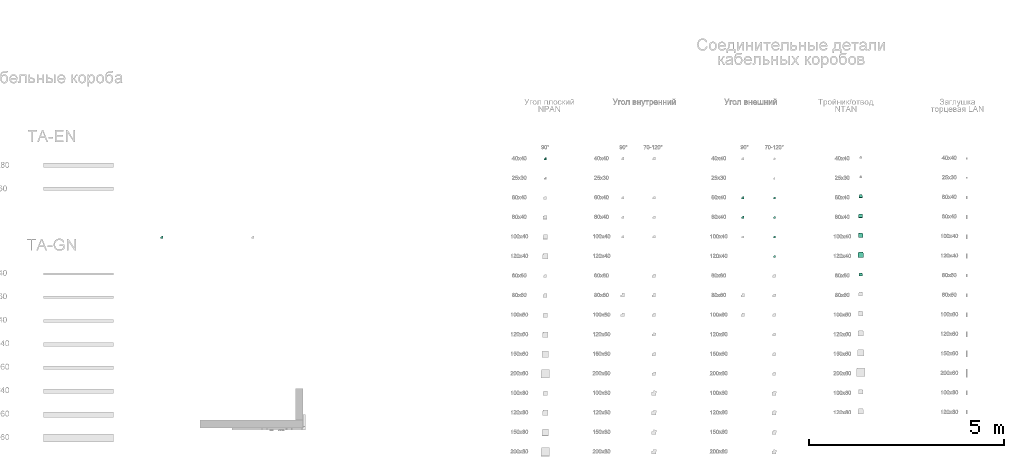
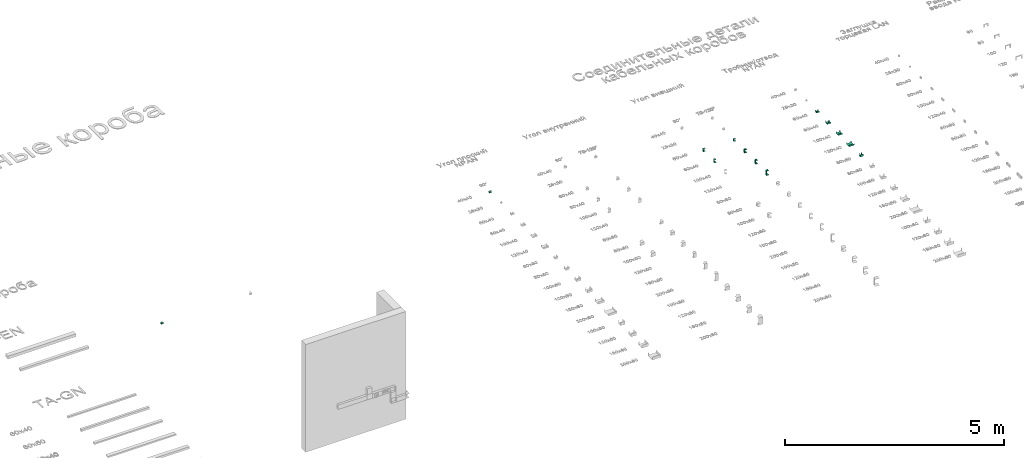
# One storey, part 8 of 71: 13 flow fittings.
"""IFC2X3 building model written with IfcOpenShell, lengths in millimetres."""

from ifc_helpers import new_model, entity, si_unit, converted_unit, derived_unit, direction, frame, origin, place, context, subcontext, project, spatial, faceted_brep, source, transform, mapped, material, type_object, type_shapes, element, save


model = new_model("IFC2X3")

# Units and contexts
model_context = context("Model", 3, precision=0.01, world=origin(), true_north=direction((6.12303176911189e-17, 1.0)))
body_context = subcontext(model_context, "Body", "Model", "MODEL_VIEW")
ifc_project = project(units=[si_unit("LENGTHUNIT", "METRE", prefix="MILLI"), si_unit("AREAUNIT", "SQUARE_METRE"), si_unit("VOLUMEUNIT", "CUBIC_METRE"), converted_unit("PLANEANGLEUNIT", "DEGREE", entity("IfcRatioMeasure", 0.0174532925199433), si_unit("PLANEANGLEUNIT", "RADIAN"), dimensions=[0, 0, 0, 0, 0, 0, 0]), si_unit("MASSUNIT", "GRAM", prefix="KILO"), derived_unit("MASSDENSITYUNIT", [(si_unit("MASSUNIT", "GRAM", prefix="KILO"), 1), (si_unit("LENGTHUNIT", "METRE"), -3)]), si_unit("TIMEUNIT", "SECOND"), si_unit("FREQUENCYUNIT", "HERTZ"), si_unit("THERMODYNAMICTEMPERATUREUNIT", "DEGREE_CELSIUS"), derived_unit("THERMALTRANSMITTANCEUNIT", [(si_unit("MASSUNIT", "GRAM", prefix="KILO"), 1), (si_unit("THERMODYNAMICTEMPERATUREUNIT", "KELVIN"), -1), (si_unit("TIMEUNIT", "SECOND"), -3)]), derived_unit("VOLUMETRICFLOWRATEUNIT", [(si_unit("LENGTHUNIT", "METRE"), 3), (si_unit("TIMEUNIT", "SECOND"), -1)]), si_unit("ELECTRICCURRENTUNIT", "AMPERE"), si_unit("ELECTRICVOLTAGEUNIT", "VOLT"), si_unit("POWERUNIT", "WATT"), si_unit("FORCEUNIT", "NEWTON", prefix="KILO"), si_unit("ILLUMINANCEUNIT", "LUX"), si_unit("LUMINOUSFLUXUNIT", "LUMEN"), si_unit("LUMINOUSINTENSITYUNIT", "CANDELA"), derived_unit("USERDEFINED", [(si_unit("MASSUNIT", "GRAM", prefix="KILO"), -1), (si_unit("LENGTHUNIT", "METRE"), -2), (si_unit("TIMEUNIT", "SECOND"), 3), (si_unit("LUMINOUSFLUXUNIT", "LUMEN"), 1)]), derived_unit("LINEARVELOCITYUNIT", [(si_unit("LENGTHUNIT", "METRE"), 1), (si_unit("TIMEUNIT", "SECOND"), -1)]), si_unit("PRESSUREUNIT", "PASCAL"), derived_unit("USERDEFINED", [(si_unit("LENGTHUNIT", "METRE"), -2), (si_unit("MASSUNIT", "GRAM", prefix="KILO"), 1), (si_unit("TIMEUNIT", "SECOND"), -2)])], contexts=[model_context])

# Site, building, storey
site_placement = place(None, origin())
site = spatial("IfcSite", under=ifc_project, at=site_placement, Name="Default", CompositionType="ELEMENT")
building_placement = place(site_placement, origin())
building = spatial("IfcBuilding", under=site, at=building_placement, Name="Наименование здания", CompositionType="ELEMENT")
storey_placement = place(building_placement, origin())
storey = spatial("IfcBuildingStorey", under=building, at=storey_placement, Name="Этаж 01", CompositionType="ELEMENT", Elevation=0.0)

# Flow fittings
ifc_material = material(Name="DKC_Пластик_Белый")
cable_carrier_fitting_type_1 = type_object("IfcCableCarrierFittingType", Name="Угол плоский NPAN_DKC", PredefinedType="NOTDEFINED", material=ifc_material)
shared_shape_1 = source(origin(), body_context, "Body", "Brep", [
    faceted_brep([(-40.0, 20.0, -20.0), (-40.0, -20.0, -20.0), (-40.0, -20.0, 20.0), (-40.0, -17.4600000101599, 20.0), (-40.0, -17.4600000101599, -17.4600000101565), (-40.0, 17.4600000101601, -17.4600000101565), (-40.0, 17.4600000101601, 20.0), (-40.0, 20.0, 20.0), (-20.0, 20.0, -20.0), (-20.0, 40.0, -20.0), (20.0, 40.0, -20.0), (20.0, -20.0, -20.0), (20.0, -20.0, 20.0), (20.0, 40.0, 20.0), (17.4600000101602, 40.0, 20.0), (17.4600000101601, -17.4600000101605, 20.0), (17.4600000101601, -17.4600000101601, -17.4600000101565), (17.4600000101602, 40.0, -17.4600000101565), (-17.4600000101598, 40.0, -17.4600000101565), (-17.4600000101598, 17.4600000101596, -17.4600000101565), (-17.4600000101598, 17.4600000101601, 20.0), (-17.4600000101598, 40.0, 20.0), (-20.0, 40.0, 20.0), (-20.0, 20.0, 20.0)], [[[0, 1, 2, 3, 4, 5, 6, 7]], [[1, 0, 8, 9, 10, 11]], [[2, 1, 11, 12]], [[3, 2, 12, 13, 14, 15]], [[4, 3, 15, 16]], [[5, 4, 16, 17, 18, 19]], [[6, 5, 19, 20]], [[7, 6, 20, 21, 22, 23]], [[0, 7, 23, 8]], [[9, 22, 21, 18, 17, 14, 13, 10]], [[12, 11, 10, 13]], [[16, 15, 14, 17]], [[20, 19, 18, 21]], [[8, 23, 22, 9]]]),
])
type_shapes(cable_carrier_fitting_type_1, [shared_shape_1])
flow_fitting_1_placement = place(storey_placement, frame((4006.99750514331, 1048.47164981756, 1000.0)))
element("IfcFlowFitting", 1, at=flow_fitting_1_placement, inside=storey, type_object=cable_carrier_fitting_type_1, material=ifc_material, Name="КНС_УголПлоский NPAN_ILC_DKC:Угол плоский NPAN_DKC", ObjectType="Угол плоский NPAN_DKC", context=body_context, shape_type="MappedRepresentation", body=[
    mapped(shared_shape_1, transform((0.0, 0.0, 0.0), scale=1.0)),
])
cable_carrier_fitting_type_2 = type_object("IfcCableCarrierFittingType", Name="Угол плоский NPAN_DKC", PredefinedType="NOTDEFINED", material=ifc_material)
shared_shape_2 = source(origin(), body_context, "Body", "Brep", [
    faceted_brep([(-40.0, 20.0, -20.0), (-40.0, -20.0, -20.0), (-40.0, -20.0, 20.0), (-40.0, -17.4999999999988, 20.0), (-40.0, -17.4999999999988, -17.4999999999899), (-40.0, 17.5000000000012, -17.4999999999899), (-40.0, 17.5000000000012, 20.0), (-40.0, 20.0, 20.0), (-20.0, 20.0, -20.0), (-20.0, 40.0, -20.0), (20.0, 40.0, -20.0), (20.0, -20.0, -20.0), (20.0, -20.0, 20.0), (20.0, 40.0, 20.0), (17.4999999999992, 40.0, 20.0), (17.4999999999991, -17.4999999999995, 20.0), (17.4999999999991, -17.499999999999, -17.4999999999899), (17.4999999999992, 40.0, -17.4999999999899), (-17.5000000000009, 40.0, -17.4999999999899), (-17.5000000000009, 17.5000000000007, -17.4999999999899), (-17.5000000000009, 17.5000000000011, 20.0), (-17.5000000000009, 40.0, 20.0), (-20.0, 40.0, 20.0), (-20.0, 20.0, 20.0)], [[[0, 1, 2, 3, 4, 5, 6, 7]], [[1, 0, 8, 9, 10, 11]], [[2, 1, 11, 12]], [[3, 2, 12, 13, 14, 15]], [[4, 3, 15, 16]], [[5, 4, 16, 17, 18, 19]], [[6, 5, 19, 20]], [[7, 6, 20, 21, 22, 23]], [[0, 7, 23, 8]], [[9, 22, 21, 18, 17, 14, 13, 10]], [[12, 11, 10, 13]], [[16, 15, 14, 17]], [[20, 19, 18, 21]], [[8, 23, 22, 9]]]),
])
type_shapes(cable_carrier_fitting_type_2, [shared_shape_2])
flow_fitting_2_placement = place(storey_placement, frame((13813.1010063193, 3060.7911827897, 0.0)))
element("IfcFlowFitting", 2, at=flow_fitting_2_placement, inside=storey, type_object=cable_carrier_fitting_type_2, material=ifc_material, Name="КНС_УголПлоский NPAN_ILC_DKC:Угол плоский NPAN_DKC", ObjectType="Угол плоский NPAN_DKC", context=body_context, shape_type="MappedRepresentation", body=[
    mapped(shared_shape_2, transform((0.0, 0.0, 0.0), scale=1.0)),
])
cable_carrier_fitting_type_3 = type_object("IfcCableCarrierFittingType", Name="Угол внешний_DKC", PredefinedType="NOTDEFINED", material=ifc_material)
shared_shape_3 = source(origin(), body_context, "Body", "Brep", [
    faceted_brep([(-40.0, 20.0, 30.0), (-40.0, 20.0, -30.0), (-40.0, -20.0, -30.0), (-40.0, -20.0, -27.4999999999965), (-40.0, 17.5000000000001, -27.4999999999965), (-40.0, 17.5000000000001, 27.5000000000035), (-40.0, -20.0, 27.5000000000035), (-40.0, -20.0, 30.0), (-20.0, 40.0, 30.0), (20.0, 40.0, 30.0), (20.0, 40.0, 27.5000000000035), (-17.499999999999, 40.0, 27.5000000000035), (-17.499999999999, 40.0, -27.4999999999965), (20.0, 40.0, -27.4999999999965), (20.0, 40.0, -30.0), (-20.0, 40.0, -30.0), (-20.0, 20.0, 30.0), (-20.0, 20.0, -30.0), (20.0, -20.0, -30.0), (20.0, -20.0, -27.4999999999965), (-17.4999999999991, 17.4999999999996, -27.4999999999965), (-17.4999999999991, 17.5000000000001, 27.5000000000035), (20.0, -20.0, 27.5000000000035), (20.0, -20.0, 30.0)], [[[0, 1, 2, 3, 4, 5, 6, 7]], [[8, 9, 10, 11, 12, 13, 14, 15]], [[1, 0, 16, 17]], [[2, 1, 17, 15, 14, 18]], [[3, 2, 18, 19]], [[4, 3, 19, 13, 12, 20]], [[5, 4, 20, 21]], [[6, 5, 21, 11, 10, 22]], [[7, 6, 22, 23]], [[0, 7, 23, 9, 8, 16]], [[17, 16, 8, 15]], [[19, 18, 14, 13]], [[21, 20, 12, 11]], [[23, 22, 10, 9]]]),
])
type_shapes(cable_carrier_fitting_type_3, [shared_shape_3])
flow_fitting_3_placement = place(storey_placement, frame((18870.2876691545, 2060.7911827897, 0.0)))
element("IfcFlowFitting", 3, at=flow_fitting_3_placement, inside=storey, type_object=cable_carrier_fitting_type_3, material=ifc_material, Name="КНС_УголВнешний_ILC_DKC:Угол внешний_DKC", ObjectType="Угол внешний_DKC", context=body_context, shape_type="MappedRepresentation", body=[
    mapped(shared_shape_3, transform((0.0, 0.0, 0.0), scale=1.0)),
])
cable_carrier_fitting_type_4 = type_object("IfcCableCarrierFittingType", Name="Угол внешний_DKC", PredefinedType="NOTDEFINED", material=ifc_material)
shared_shape_4 = source(origin(), body_context, "Body", "Brep", [
    faceted_brep([(-40.0, 20.0, 40.0), (-40.0, 20.0, -40.0), (-40.0, -20.0, -40.0), (-40.0, -20.0, -37.4999999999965), (-40.0, 17.5000000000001, -37.4999999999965), (-40.0, 17.5000000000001, 37.5000000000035), (-40.0, -20.0, 37.5000000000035), (-40.0, -20.0, 40.0), (-20.0, 40.0, 40.0), (20.0, 40.0, 40.0), (20.0, 40.0, 37.5000000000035), (-17.499999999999, 40.0, 37.5000000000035), (-17.499999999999, 40.0, -37.4999999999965), (20.0, 40.0, -37.4999999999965), (20.0, 40.0, -40.0), (-20.0, 40.0, -40.0), (-20.0, 20.0, 40.0), (-20.0, 20.0, -40.0), (20.0, -20.0, -40.0), (20.0, -20.0, -37.4999999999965), (-17.4999999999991, 17.4999999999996, -37.4999999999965), (-17.4999999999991, 17.5000000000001, 37.5000000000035), (20.0, -20.0, 37.5000000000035), (20.0, -20.0, 40.0)], [[[0, 1, 2, 3, 4, 5, 6, 7]], [[8, 9, 10, 11, 12, 13, 14, 15]], [[1, 0, 16, 17]], [[2, 1, 17, 15, 14, 18]], [[3, 2, 18, 19]], [[4, 3, 19, 13, 12, 20]], [[5, 4, 20, 21]], [[6, 5, 21, 11, 10, 22]], [[7, 6, 22, 23]], [[0, 7, 23, 9, 8, 16]], [[17, 16, 8, 15]], [[19, 18, 14, 13]], [[21, 20, 12, 11]], [[23, 22, 10, 9]]]),
])
type_shapes(cable_carrier_fitting_type_4, [shared_shape_4])
flow_fitting_4_placement = place(storey_placement, frame((18870.2876691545, 1560.7911827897, 0.0)))
element("IfcFlowFitting", 4, at=flow_fitting_4_placement, inside=storey, type_object=cable_carrier_fitting_type_4, material=ifc_material, Name="КНС_УголВнешний_ILC_DKC:Угол внешний_DKC", ObjectType="Угол внешний_DKC", context=body_context, shape_type="MappedRepresentation", body=[
    mapped(shared_shape_4, transform((0.0, 0.0, 0.0), scale=1.0)),
])
cable_carrier_fitting_type_5 = type_object("IfcCableCarrierFittingType", Name="Угол внешний_DKC", PredefinedType="NOTDEFINED", material=ifc_material)
shared_shape_5 = source(origin(), body_context, "Body", "Brep", [
    faceted_brep([(-33.5639852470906, 20.0, 30.0), (-33.5639852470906, 20.0, -30.0), (-33.5639852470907, -20.0, -30.0), (-33.5639852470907, -20.0, -27.4999999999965), (-33.5639852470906, 17.5000000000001, -27.4999999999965), (-33.5639852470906, 17.5000000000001, 27.5000000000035), (-33.5639852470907, -20.0, 27.5000000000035), (-33.5639852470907, -20.0, 30.0), (-13.8678301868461, 36.5270364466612, 30.0), (25.5244799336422, 29.581109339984, 30.0), (25.5244799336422, 29.581109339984, 27.5000000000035), (-11.4058108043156, 36.0929160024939, 27.5000000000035), (-11.4058108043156, 36.0929160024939, -27.4999999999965), (25.5244799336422, 29.581109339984, -27.4999999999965), (25.5244799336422, 29.581109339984, -30.0), (-13.8678301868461, 36.5270364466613, -30.0), (-16.7819926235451, 20.0, 30.0), (-16.7819926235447, 20.0, -30.0), (16.7819926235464, -20.0, -30.0), (16.7819926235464, -20.0, -27.4999999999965), (-14.6842435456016, 17.4999999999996, -27.4999999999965), (-14.6842435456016, 17.5000000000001, 27.5000000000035), (16.7819926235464, -20.0, 27.5000000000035), (16.7819926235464, -20.0, 30.0)], [[[0, 1, 2, 3, 4, 5, 6, 7]], [[8, 9, 10, 11, 12, 13, 14, 15]], [[1, 0, 16, 17]], [[2, 1, 17, 15, 14, 18]], [[3, 2, 18, 19]], [[4, 3, 19, 13, 12, 20]], [[5, 4, 20, 21]], [[6, 5, 21, 11, 10, 22]], [[7, 6, 22, 23]], [[0, 7, 23, 9, 8, 16]], [[17, 16, 8, 15]], [[19, 18, 14, 13]], [[21, 20, 12, 11]], [[23, 22, 10, 9]]]),
])
type_shapes(cable_carrier_fitting_type_5, [shared_shape_5])
flow_fitting_5_placement = place(storey_placement, frame((19670.2876691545, 2060.7911827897, 0.0)))
element("IfcFlowFitting", 5, at=flow_fitting_5_placement, inside=storey, type_object=cable_carrier_fitting_type_5, material=ifc_material, Name="КНС_УголВнешний_ILC_DKC:Угол внешний_DKC", ObjectType="Угол внешний_DKC", context=body_context, shape_type="MappedRepresentation", body=[
    mapped(shared_shape_5, transform((0.0, 0.0, 0.0), scale=1.0)),
])
cable_carrier_fitting_type_6 = type_object("IfcCableCarrierFittingType", Name="Угол внешний_DKC", PredefinedType="NOTDEFINED", material=ifc_material)
shared_shape_6 = source(origin(), body_context, "Body", "Brep", [
    faceted_brep([(-33.5639852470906, 20.0, 40.0), (-33.5639852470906, 20.0, -40.0), (-33.5639852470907, -20.0, -40.0), (-33.5639852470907, -20.0, -37.4999999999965), (-33.5639852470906, 17.5000000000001, -37.4999999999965), (-33.5639852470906, 17.5000000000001, 37.5000000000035), (-33.5639852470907, -20.0, 37.5000000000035), (-33.5639852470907, -20.0, 40.0), (-13.8678301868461, 36.5270364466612, 40.0), (25.5244799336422, 29.581109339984, 40.0), (25.5244799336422, 29.581109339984, 37.5000000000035), (-11.4058108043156, 36.0929160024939, 37.5000000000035), (-11.4058108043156, 36.0929160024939, -37.4999999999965), (25.5244799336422, 29.581109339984, -37.4999999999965), (25.5244799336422, 29.581109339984, -40.0), (-13.8678301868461, 36.5270364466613, -40.0), (-16.7819926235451, 20.0, 40.0), (-16.7819926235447, 20.0, -40.0), (16.7819926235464, -20.0, -40.0), (16.7819926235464, -20.0, -37.4999999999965), (-14.6842435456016, 17.4999999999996, -37.4999999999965), (-14.6842435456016, 17.5000000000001, 37.5000000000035), (16.7819926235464, -20.0, 37.5000000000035), (16.7819926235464, -20.0, 40.0)], [[[0, 1, 2, 3, 4, 5, 6, 7]], [[8, 9, 10, 11, 12, 13, 14, 15]], [[1, 0, 16, 17]], [[2, 1, 17, 15, 14, 18]], [[3, 2, 18, 19]], [[4, 3, 19, 13, 12, 20]], [[5, 4, 20, 21]], [[6, 5, 21, 11, 10, 22]], [[7, 6, 22, 23]], [[0, 7, 23, 9, 8, 16]], [[17, 16, 8, 15]], [[19, 18, 14, 13]], [[21, 20, 12, 11]], [[23, 22, 10, 9]]]),
])
type_shapes(cable_carrier_fitting_type_6, [shared_shape_6])
flow_fitting_6_placement = place(storey_placement, frame((19670.2876691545, 1560.7911827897, 0.0)))
element("IfcFlowFitting", 6, at=flow_fitting_6_placement, inside=storey, type_object=cable_carrier_fitting_type_6, material=ifc_material, Name="КНС_УголВнешний_ILC_DKC:Угол внешний_DKC", ObjectType="Угол внешний_DKC", context=body_context, shape_type="MappedRepresentation", body=[
    mapped(shared_shape_6, transform((0.0, 0.0, 0.0), scale=1.0)),
])
cable_carrier_fitting_type_7 = type_object("IfcCableCarrierFittingType", Name="Угол внешний_DKC", PredefinedType="NOTDEFINED", material=ifc_material)
shared_shape_7 = source(origin(), body_context, "Body", "Brep", [
    faceted_brep([(-33.5639852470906, 20.0, 50.0), (-33.5639852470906, 20.0, -50.0), (-33.5639852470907, -20.0, -50.0), (-33.5639852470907, -20.0, -47.4999999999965), (-33.5639852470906, 17.5000000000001, -47.4999999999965), (-33.5639852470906, 17.5000000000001, 47.5000000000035), (-33.5639852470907, -20.0, 47.5000000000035), (-33.5639852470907, -20.0, 50.0), (-13.8678301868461, 36.5270364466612, 50.0), (25.5244799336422, 29.581109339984, 50.0), (25.5244799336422, 29.581109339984, 47.5000000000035), (-11.4058108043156, 36.0929160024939, 47.5000000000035), (-11.4058108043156, 36.0929160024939, -47.4999999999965), (25.5244799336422, 29.581109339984, -47.4999999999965), (25.5244799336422, 29.581109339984, -50.0), (-13.8678301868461, 36.5270364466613, -50.0), (-16.7819926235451, 20.0, 50.0), (-16.7819926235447, 20.0, -50.0), (16.7819926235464, -20.0, -50.0), (16.7819926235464, -20.0, -47.4999999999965), (-14.6842435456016, 17.4999999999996, -47.4999999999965), (-14.6842435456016, 17.5000000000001, 47.5000000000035), (16.7819926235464, -20.0, 47.5000000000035), (16.7819926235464, -20.0, 50.0)], [[[0, 1, 2, 3, 4, 5, 6, 7]], [[8, 9, 10, 11, 12, 13, 14, 15]], [[1, 0, 16, 17]], [[2, 1, 17, 15, 14, 18]], [[3, 2, 18, 19]], [[4, 3, 19, 13, 12, 20]], [[5, 4, 20, 21]], [[6, 5, 21, 11, 10, 22]], [[7, 6, 22, 23]], [[0, 7, 23, 9, 8, 16]], [[17, 16, 8, 15]], [[19, 18, 14, 13]], [[21, 20, 12, 11]], [[23, 22, 10, 9]]]),
])
type_shapes(cable_carrier_fitting_type_7, [shared_shape_7])
flow_fitting_7_placement = place(storey_placement, frame((19670.2876691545, 1060.7911827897, 0.0)))
element("IfcFlowFitting", 7, at=flow_fitting_7_placement, inside=storey, type_object=cable_carrier_fitting_type_7, material=ifc_material, Name="КНС_УголВнешний_ILC_DKC:Угол внешний_DKC", ObjectType="Угол внешний_DKC", context=body_context, shape_type="MappedRepresentation", body=[
    mapped(shared_shape_7, transform((0.0, 0.0, 0.0), scale=1.0)),
])
cable_carrier_fitting_type_8 = type_object("IfcCableCarrierFittingType", Name="Угол внешний_DKC", PredefinedType="NOTDEFINED", material=ifc_material)
shared_shape_8 = source(origin(), body_context, "Body", "Brep", [
    faceted_brep([(-33.5639852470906, 20.0, 60.0), (-33.5639852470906, 20.0, -60.0), (-33.5639852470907, -20.0, -60.0), (-33.5639852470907, -20.0, -57.4999999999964), (-33.5639852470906, 17.5000000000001, -57.4999999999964), (-33.5639852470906, 17.5000000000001, 57.5000000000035), (-33.5639852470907, -20.0, 57.5000000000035), (-33.5639852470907, -20.0, 60.0), (-13.8678301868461, 36.5270364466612, 60.0), (25.5244799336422, 29.581109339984, 60.0), (25.5244799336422, 29.581109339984, 57.5000000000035), (-11.4058108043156, 36.0929160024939, 57.5000000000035), (-11.4058108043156, 36.0929160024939, -57.4999999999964), (25.5244799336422, 29.581109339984, -57.4999999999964), (25.5244799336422, 29.581109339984, -60.0), (-13.8678301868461, 36.5270364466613, -60.0), (-16.7819926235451, 20.0, 60.0), (-16.7819926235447, 20.0, -60.0), (16.7819926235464, -20.0, -60.0), (16.7819926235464, -20.0, -57.4999999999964), (-14.6842435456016, 17.4999999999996, -57.4999999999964), (-14.6842435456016, 17.5000000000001, 57.5000000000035), (16.7819926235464, -20.0, 57.5000000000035), (16.7819926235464, -20.0, 60.0)], [[[0, 1, 2, 3, 4, 5, 6, 7]], [[8, 9, 10, 11, 12, 13, 14, 15]], [[1, 0, 16, 17]], [[2, 1, 17, 15, 14, 18]], [[3, 2, 18, 19]], [[4, 3, 19, 13, 12, 20]], [[5, 4, 20, 21]], [[6, 5, 21, 11, 10, 22]], [[7, 6, 22, 23]], [[0, 7, 23, 9, 8, 16]], [[17, 16, 8, 15]], [[19, 18, 14, 13]], [[21, 20, 12, 11]], [[23, 22, 10, 9]]]),
])
type_shapes(cable_carrier_fitting_type_8, [shared_shape_8])
flow_fitting_8_placement = place(storey_placement, frame((19670.2876691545, 560.791182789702, 0.0)))
element("IfcFlowFitting", 8, at=flow_fitting_8_placement, inside=storey, type_object=cable_carrier_fitting_type_8, material=ifc_material, Name="КНС_УголВнешний_ILC_DKC:Угол внешний_DKC", ObjectType="Угол внешний_DKC", context=body_context, shape_type="MappedRepresentation", body=[
    mapped(shared_shape_8, transform((0.0, 0.0, 0.0), scale=1.0)),
])
cable_carrier_fitting_type_9 = type_object("IfcCableCarrierFittingType", Name="Тройник/отвод", PredefinedType="NOTDEFINED", material=ifc_material)
shared_shape_9 = source(origin(), body_context, "Body", "Brep", [
    faceted_brep([(40.0, -27.4999999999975, -17.4999999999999), (40.0, 27.5000000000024, -17.4999999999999), (27.4999999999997, 27.5000000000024, -17.4999999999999), (27.4999999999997, 50.0, -17.4999999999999), (-27.4999999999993, 50.0, -17.5000000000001), (-27.4999999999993, 27.5000000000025, -17.5000000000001), (-40.0, 27.5000000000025, -17.5000000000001), (-40.0, -27.4999999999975, -17.5000000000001), (40.0, -30.0, -20.0), (-40.0, -30.0, -20.0), (-40.0, 30.0, -20.0), (-30.0, 30.0, -20.0), (-30.0, 50.0, -20.0), (30.0, 50.0, -20.0), (30.0, 30.0, -20.0), (40.0, 30.0, -20.0), (40.0, 30.0, 20.0), (40.0, 27.5000000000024, 20.0), (40.0, -27.4999999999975, 20.0), (40.0, -30.0, 20.0), (30.0, 30.0, 20.0), (30.0, 50.0, 20.0), (-30.0, 50.0, 20.0), (-27.4999999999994, 50.0, 20.0), (27.4999999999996, 50.0, 20.0), (-30.0, 30.0, 20.0), (-40.0, 30.0, 20.0), (-40.0, -30.0, 20.0), (-40.0, -27.4999999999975, 20.0), (-40.0, 27.5000000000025, 20.0), (-27.4999999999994, 27.5000000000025, 20.0), (27.4999999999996, 27.5000000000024, 20.0)], [[[0, 1, 2, 3, 4, 5, 6, 7]], [[8, 9, 10, 11, 12, 13, 14, 15]], [[8, 15, 16, 17, 1, 0, 18, 19]], [[16, 15, 14, 20]], [[20, 14, 13, 21]], [[21, 13, 12, 22, 23, 4, 3, 24]], [[22, 12, 11, 25]], [[25, 11, 10, 26]], [[26, 10, 9, 27, 28, 7, 6, 29]], [[27, 9, 8, 19]], [[27, 19, 18, 28]], [[30, 29, 6, 5]], [[23, 30, 5, 4]], [[31, 24, 3, 2]], [[17, 31, 2, 1]], [[28, 18, 0, 7]], [[20, 21, 24, 31, 17, 16]], [[25, 26, 29, 30, 23, 22]]]),
])
type_shapes(cable_carrier_fitting_type_9, [shared_shape_9])
flow_fitting_9_placement = place(storey_placement, frame((21873.0522222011, 2100.7911827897, 0.0)))
element("IfcFlowFitting", 9, at=flow_fitting_9_placement, inside=storey, type_object=cable_carrier_fitting_type_9, material=ifc_material, Name="КНС_ТройникNTAN_ILC_DKC:Тройник/отвод", ObjectType="Тройник/отвод", context=body_context, shape_type="MappedRepresentation", body=[
    mapped(shared_shape_9, transform((0.0, 0.0, 0.0), scale=1.0)),
])
cable_carrier_fitting_type_10 = type_object("IfcCableCarrierFittingType", Name="Тройник/отвод", PredefinedType="NOTDEFINED", material=ifc_material)
shared_shape_10 = source(origin(), body_context, "Body", "Brep", [
    faceted_brep([(50.0, -37.4999999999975, -17.4999999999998), (50.0, 37.5000000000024, -17.4999999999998), (37.4999999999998, 37.5000000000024, -17.4999999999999), (37.4999999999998, 60.0, -17.4999999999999), (-37.4999999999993, 60.0, -17.5000000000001), (-37.4999999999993, 37.5000000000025, -17.5000000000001), (-50.0, 37.5000000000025, -17.5000000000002), (-50.0, -37.4999999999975, -17.5000000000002), (50.0, -40.0, -20.0), (-50.0, -40.0, -20.0), (-50.0, 40.0, -20.0), (-40.0, 40.0, -20.0), (-40.0, 60.0, -20.0), (40.0, 60.0, -20.0), (40.0, 40.0, -20.0), (50.0, 40.0, -20.0), (50.0, 40.0, 20.0), (50.0, 37.5000000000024, 20.0), (50.0, -37.4999999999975, 20.0), (50.0, -40.0, 20.0), (40.0, 40.0, 20.0), (40.0, 60.0, 20.0), (-40.0, 60.0, 20.0), (-37.4999999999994, 60.0, 20.0), (37.4999999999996, 60.0, 20.0), (-40.0, 40.0, 20.0), (-50.0, 40.0, 20.0), (-50.0, -40.0, 20.0), (-50.0, -37.4999999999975, 20.0), (-50.0, 37.5000000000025, 20.0), (-37.4999999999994, 37.5000000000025, 20.0), (37.4999999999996, 37.5000000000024, 20.0)], [[[0, 1, 2, 3, 4, 5, 6, 7]], [[8, 9, 10, 11, 12, 13, 14, 15]], [[8, 15, 16, 17, 1, 0, 18, 19]], [[16, 15, 14, 20]], [[20, 14, 13, 21]], [[21, 13, 12, 22, 23, 4, 3, 24]], [[22, 12, 11, 25]], [[25, 11, 10, 26]], [[26, 10, 9, 27, 28, 7, 6, 29]], [[27, 9, 8, 19]], [[27, 19, 18, 28]], [[30, 29, 6, 5]], [[23, 30, 5, 4]], [[31, 24, 3, 2]], [[17, 31, 2, 1]], [[28, 18, 0, 7]], [[20, 21, 24, 31, 17, 16]], [[25, 26, 29, 30, 23, 22]]]),
])
type_shapes(cable_carrier_fitting_type_10, [shared_shape_10])
flow_fitting_10_placement = place(storey_placement, frame((21873.0522222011, 1600.7911827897, 0.0)))
element("IfcFlowFitting", 10, at=flow_fitting_10_placement, inside=storey, type_object=cable_carrier_fitting_type_10, material=ifc_material, Name="КНС_ТройникNTAN_ILC_DKC:Тройник/отвод", ObjectType="Тройник/отвод", context=body_context, shape_type="MappedRepresentation", body=[
    mapped(shared_shape_10, transform((0.0, 0.0, 0.0), scale=1.0)),
])
cable_carrier_fitting_type_11 = type_object("IfcCableCarrierFittingType", Name="Тройник/отвод", PredefinedType="NOTDEFINED", material=ifc_material)
shared_shape_11 = source(origin(), body_context, "Body", "Brep", [
    faceted_brep([(60.0, -47.4999999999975, -17.4999999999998), (60.0, 47.5000000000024, -17.4999999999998), (47.4999999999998, 47.5000000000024, -17.4999999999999), (47.4999999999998, 70.0, -17.4999999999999), (-47.4999999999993, 70.0, -17.5000000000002), (-47.4999999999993, 47.5000000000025, -17.5000000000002), (-60.0, 47.5000000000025, -17.5000000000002), (-60.0, -47.4999999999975, -17.5000000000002), (60.0, -50.0, -20.0), (-60.0, -50.0, -20.0), (-60.0, 50.0, -20.0), (-50.0, 50.0, -20.0), (-50.0, 70.0, -20.0), (50.0, 70.0, -20.0), (50.0, 50.0, -20.0), (60.0, 50.0, -20.0), (60.0, 50.0, 20.0), (60.0, 47.5000000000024, 20.0), (60.0, -47.4999999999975, 20.0), (60.0, -50.0, 20.0), (50.0, 50.0, 20.0), (50.0, 70.0, 20.0), (-50.0, 70.0, 20.0), (-47.4999999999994, 70.0, 20.0), (47.4999999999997, 70.0, 20.0), (-50.0, 50.0, 20.0), (-60.0, 50.0, 20.0), (-60.0, -50.0, 20.0), (-60.0, -47.4999999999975, 20.0), (-60.0, 47.5000000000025, 20.0), (-47.4999999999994, 47.5000000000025, 20.0), (47.4999999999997, 47.5000000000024, 20.0)], [[[0, 1, 2, 3, 4, 5, 6, 7]], [[8, 9, 10, 11, 12, 13, 14, 15]], [[8, 15, 16, 17, 1, 0, 18, 19]], [[16, 15, 14, 20]], [[20, 14, 13, 21]], [[21, 13, 12, 22, 23, 4, 3, 24]], [[22, 12, 11, 25]], [[25, 11, 10, 26]], [[26, 10, 9, 27, 28, 7, 6, 29]], [[27, 9, 8, 19]], [[27, 19, 18, 28]], [[30, 29, 6, 5]], [[23, 30, 5, 4]], [[31, 24, 3, 2]], [[17, 31, 2, 1]], [[28, 18, 0, 7]], [[20, 21, 24, 31, 17, 16]], [[25, 26, 29, 30, 23, 22]]]),
])
type_shapes(cable_carrier_fitting_type_11, [shared_shape_11])
flow_fitting_11_placement = place(storey_placement, frame((21873.0522222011, 1100.7911827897, 0.0)))
element("IfcFlowFitting", 11, at=flow_fitting_11_placement, inside=storey, type_object=cable_carrier_fitting_type_11, material=ifc_material, Name="КНС_ТройникNTAN_ILC_DKC:Тройник/отвод", ObjectType="Тройник/отвод", context=body_context, shape_type="MappedRepresentation", body=[
    mapped(shared_shape_11, transform((0.0, 0.0, 0.0), scale=1.0)),
])
cable_carrier_fitting_type_12 = type_object("IfcCableCarrierFittingType", Name="Тройник/отвод", PredefinedType="NOTDEFINED", material=ifc_material)
shared_shape_12 = source(origin(), body_context, "Body", "Brep", [
    faceted_brep([(70.0, -57.4999999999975, -17.4999999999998), (70.0, 57.5000000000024, -17.4999999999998), (57.4999999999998, 57.5000000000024, -17.4999999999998), (57.4999999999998, 80.0, -17.4999999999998), (-57.4999999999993, 80.0, -17.5000000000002), (-57.4999999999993, 57.5000000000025, -17.5000000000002), (-70.0, 57.5000000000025, -17.5000000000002), (-70.0, -57.4999999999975, -17.5000000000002), (70.0, -60.0, -20.0), (-70.0, -60.0, -20.0), (-70.0, 60.0, -20.0), (-60.0, 60.0, -20.0), (-60.0, 80.0, -20.0), (60.0, 80.0, -20.0), (60.0, 60.0, -20.0), (70.0, 60.0, -20.0), (70.0, 60.0, 20.0), (70.0, 57.5000000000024, 20.0), (70.0, -57.4999999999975, 20.0), (70.0, -60.0, 20.0), (60.0, 60.0, 20.0), (60.0, 80.0, 20.0), (-60.0, 80.0, 20.0), (-57.4999999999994, 80.0, 20.0), (57.4999999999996, 80.0, 20.0), (-60.0, 60.0, 20.0), (-70.0, 60.0, 20.0), (-70.0, -60.0, 20.0), (-70.0, -57.4999999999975, 20.0), (-70.0, 57.5000000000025, 20.0), (-57.4999999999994, 57.5000000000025, 20.0), (57.4999999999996, 57.5000000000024, 20.0)], [[[0, 1, 2, 3, 4, 5, 6, 7]], [[8, 9, 10, 11, 12, 13, 14, 15]], [[8, 15, 16, 17, 1, 0, 18, 19]], [[16, 15, 14, 20]], [[20, 14, 13, 21]], [[21, 13, 12, 22, 23, 4, 3, 24]], [[22, 12, 11, 25]], [[25, 11, 10, 26]], [[26, 10, 9, 27, 28, 7, 6, 29]], [[27, 9, 8, 19]], [[27, 19, 18, 28]], [[30, 29, 6, 5]], [[23, 30, 5, 4]], [[31, 24, 3, 2]], [[17, 31, 2, 1]], [[28, 18, 0, 7]], [[20, 21, 24, 31, 17, 16]], [[25, 26, 29, 30, 23, 22]]]),
])
type_shapes(cable_carrier_fitting_type_12, [shared_shape_12])
flow_fitting_12_placement = place(storey_placement, frame((21873.0522222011, 600.791182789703, 0.0)))
element("IfcFlowFitting", 12, at=flow_fitting_12_placement, inside=storey, type_object=cable_carrier_fitting_type_12, material=ifc_material, Name="КНС_ТройникNTAN_ILC_DKC:Тройник/отвод", ObjectType="Тройник/отвод", context=body_context, shape_type="MappedRepresentation", body=[
    mapped(shared_shape_12, transform((0.0, 0.0, 0.0), scale=1.0)),
])
cable_carrier_fitting_type_13 = type_object("IfcCableCarrierFittingType", Name="Тройник/отвод", PredefinedType="NOTDEFINED", material=ifc_material)
shared_shape_13 = source(origin(), body_context, "Body", "Brep", [
    faceted_brep([(40.0, -27.4999999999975, -27.4999999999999), (40.0, 27.5000000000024, -27.4999999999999), (27.4999999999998, 27.5000000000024, -27.4999999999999), (27.4999999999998, 50.0, -27.4999999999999), (-27.4999999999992, 50.0, -27.5000000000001), (-27.4999999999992, 27.5000000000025, -27.5000000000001), (-40.0, 27.5000000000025, -27.5000000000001), (-40.0, -27.4999999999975, -27.5000000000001), (40.0, -30.0, -30.0), (-40.0, -30.0, -30.0), (-40.0, 30.0, -30.0), (-30.0, 30.0, -30.0), (-30.0, 50.0, -30.0), (30.0, 50.0, -30.0), (30.0, 30.0, -30.0), (40.0, 30.0, -30.0), (40.0, 30.0, 30.0), (40.0, 27.5000000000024, 30.0), (40.0, -27.4999999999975, 30.0), (40.0, -30.0, 30.0), (30.0, 30.0, 30.0), (30.0, 50.0, 30.0), (-30.0, 50.0, 30.0), (-27.4999999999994, 50.0, 30.0), (27.4999999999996, 50.0, 30.0), (-30.0, 30.0, 30.0), (-40.0, 30.0, 30.0), (-40.0, -30.0, 30.0), (-40.0, -27.4999999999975, 30.0), (-40.0, 27.5000000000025, 30.0), (-27.4999999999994, 27.5000000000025, 30.0), (27.4999999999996, 27.5000000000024, 30.0)], [[[0, 1, 2, 3, 4, 5, 6, 7]], [[8, 9, 10, 11, 12, 13, 14, 15]], [[8, 15, 16, 17, 1, 0, 18, 19]], [[16, 15, 14, 20]], [[20, 14, 13, 21]], [[21, 13, 12, 22, 23, 4, 3, 24]], [[22, 12, 11, 25]], [[25, 11, 10, 26]], [[26, 10, 9, 27, 28, 7, 6, 29]], [[27, 9, 8, 19]], [[27, 19, 18, 28]], [[30, 29, 6, 5]], [[23, 30, 5, 4]], [[31, 24, 3, 2]], [[17, 31, 2, 1]], [[28, 18, 0, 7]], [[20, 21, 24, 31, 17, 16]], [[25, 26, 29, 30, 23, 22]]]),
])
type_shapes(cable_carrier_fitting_type_13, [shared_shape_13])
flow_fitting_13_placement = place(storey_placement, frame((21873.0522222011, 100.791182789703, 0.0)))
element("IfcFlowFitting", 13, at=flow_fitting_13_placement, inside=storey, type_object=cable_carrier_fitting_type_13, material=ifc_material, Name="КНС_ТройникNTAN_ILC_DKC:Тройник/отвод", ObjectType="Тройник/отвод", context=body_context, shape_type="MappedRepresentation", body=[
    mapped(shared_shape_13, transform((0.0, 0.0, 0.0), scale=1.0)),
])

save(model, "model.ifc")
